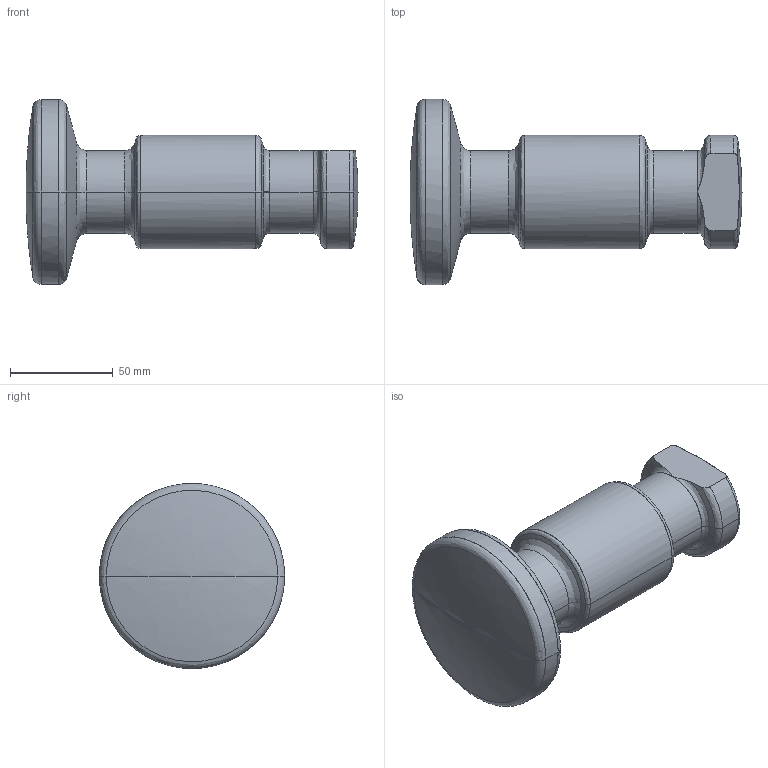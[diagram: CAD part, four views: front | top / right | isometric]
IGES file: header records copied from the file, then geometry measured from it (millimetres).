
Global section: file name: E:\UnigraphicsGraphicData\MISUMI_PRESS-PARTS\IGES\3d_chfl40_03523_r00.igs; native system: NX V5.0; preprocessor: UGS NX IGES V5.0; author: MISUMI; date: 20110105.160217; units: millimetre
Bounding box: 161.3 x 90 x 89.81 mm (x, y, z)
Surface area: 39559.7 mm2 (no closed solid volume)
Topology: 0 solids, 0 shells, 48 faces, 215 edges, 211 vertices
Faces by surface type: bspline 48
